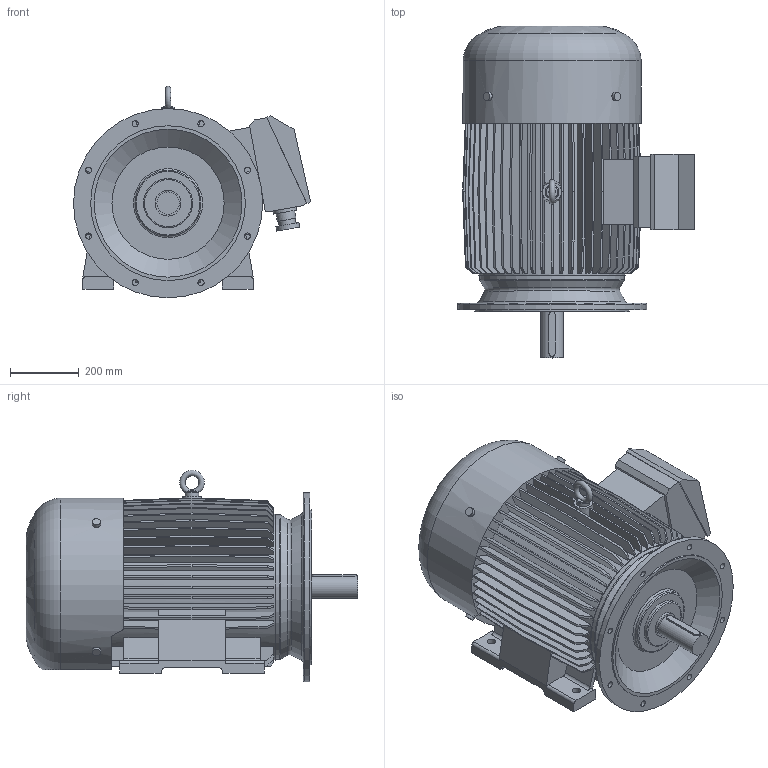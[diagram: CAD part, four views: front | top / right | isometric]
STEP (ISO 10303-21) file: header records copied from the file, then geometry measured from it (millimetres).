
FILE_DESCRIPTION( ( 'Unknown' ), '1' );
FILE_NAME( 'P:/3D_Bry³y silników skatalogowane/2Sg/2Sg250/2SLg250M4.stp', 'Unknown', ( 'Unknown' ), ( 'Unknown' ), 'XStep 1.0', 'Unknown', ' ' );
FILE_SCHEMA( ( 'CONFIG_CONTROL_DESIGN' ) );
Length unit declared in the file: millimetre
Products named in the file (1): 1
Bounding box: 689.26 x 965 x 614.99 mm (x, y, z)
Volume: 150505939.2 mm3; surface area: 3724797.7 mm2
Topology: 2 solids, 2 shells, 470 faces, 1320 edges, 878 vertices
Faces by surface type: plane 377, cylinder 73, torus 11, cone 8, bspline 1
Full cylindrical faces by diameter (mm): 18 x8, 24 x4, 25 x4, 40 x3, 48.628 x2, 55.029 x2, 65 x1, 67.566 x2, 68.767 x2, 75 x1, 142.409 x1, 191.411 x1, 420 x1, 425 x1, 450 x1, 550 x1
Entity records: 15579 total; most frequent: CARTESIAN_POINT 3417, ORIENTED_EDGE 2522, DIRECTION 2432, EDGE_CURVE 1261, LINE 966, VECTOR 966, VERTEX_POINT 868, AXIS2_PLACEMENT_3D 733
